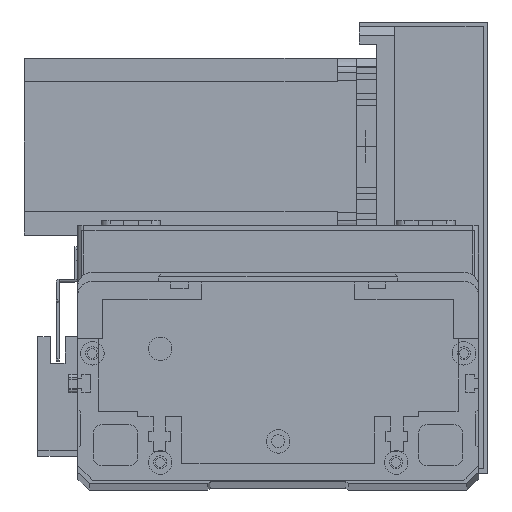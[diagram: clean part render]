
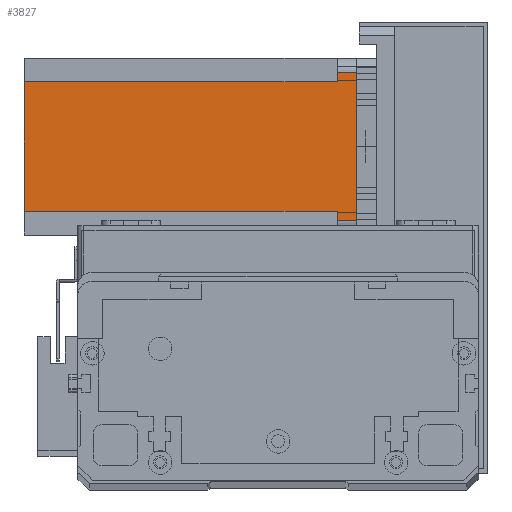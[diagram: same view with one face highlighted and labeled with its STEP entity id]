
A CAD part, top view. The second image highlights one B-rep face of the part: STEP entity #3827.
In plain terms, the highlighted planar face has unit normal (0, 0, 1) as drawn and (0, 1, 0) by its records, which use the part's own axes.
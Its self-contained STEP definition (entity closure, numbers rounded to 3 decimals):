
#183 = VECTOR ( 'NONE', #28445, 1000. ) ;
#547 = VERTEX_POINT ( 'NONE', #15726 ) ;
#972 = LINE ( 'NONE', #10698, #183 ) ;
#2537 = CARTESIAN_POINT ( 'NONE',  ( 5., 60., -6.5 ) ) ;
#3827 = ADVANCED_FACE ( 'NONE', ( #21886 ), #22219, .T. ) ;
#4146 = VERTEX_POINT ( 'NONE', #16596 ) ;
#4256 = VERTEX_POINT ( 'NONE', #17793 ) ;
#5270 = LINE ( 'NONE', #21995, #27831 ) ;
#5448 = EDGE_CURVE ( 'NONE', #4256, #28583, #5270, .T. ) ;
#5892 = LINE ( 'NONE', #15341, #16782 ) ;
#6474 = CARTESIAN_POINT ( 'NONE',  ( 8., 60., -112.5 ) ) ;
#6867 = EDGE_CURVE ( 'NONE', #4146, #28583, #11165, .T. ) ;
#7219 = AXIS2_PLACEMENT_3D ( 'NONE', #22744, #21798, #21697 ) ;
#7447 = VECTOR ( 'NONE', #22569, 1000. ) ;
#7456 = EDGE_CURVE ( 'NONE', #15126, #4146, #19631, .T. ) ;
#8175 = VECTOR ( 'NONE', #9691, 1000. ) ;
#8660 = EDGE_CURVE ( 'NONE', #15126, #13850, #5892, .T. ) ;
#9377 = ORIENTED_EDGE ( 'NONE', *, *, #8660, .T. ) ;
#9612 = CARTESIAN_POINT ( 'NONE',  ( 8., 60., -6.5 ) ) ;
#9682 = LINE ( 'NONE', #27920, #26801 ) ;
#9691 = DIRECTION ( 'NONE',  ( -1., 0., 0. ) ) ;
#10627 = EDGE_CURVE ( 'NONE', #547, #13850, #9682, .T. ) ;
#10698 = CARTESIAN_POINT ( 'NONE',  ( 0., 60., 0. ) ) ;
#11165 = LINE ( 'NONE', #24061, #22396 ) ;
#11250 = EDGE_LOOP ( 'NONE', ( #15271, #13074, #21480, #12265, #9377, #18444, #12349, #29091 ) ) ;
#11571 = EDGE_CURVE ( 'NONE', #547, #17693, #14325, .T. ) ;
#12144 = EDGE_CURVE ( 'NONE', #17693, #23150, #26366, .T. ) ;
#12265 = ORIENTED_EDGE ( 'NONE', *, *, #7456, .F. ) ;
#12349 = ORIENTED_EDGE ( 'NONE', *, *, #11571, .T. ) ;
#12842 = CARTESIAN_POINT ( 'NONE',  ( 5., 60., 0. ) ) ;
#13074 = ORIENTED_EDGE ( 'NONE', *, *, #5448, .T. ) ;
#13850 = VERTEX_POINT ( 'NONE', #6474 ) ;
#14325 = LINE ( 'NONE', #9612, #8175 ) ;
#14408 = CARTESIAN_POINT ( 'NONE',  ( 52., 60., -112.5 ) ) ;
#14660 = VECTOR ( 'NONE', #27436, 1000. ) ;
#15052 = DIRECTION ( 'NONE',  ( -1., 0., 0. ) ) ;
#15126 = VERTEX_POINT ( 'NONE', #14408 ) ;
#15271 = ORIENTED_EDGE ( 'NONE', *, *, #19050, .F. ) ;
#15341 = CARTESIAN_POINT ( 'NONE',  ( 0., 60., -112.5 ) ) ;
#15726 = CARTESIAN_POINT ( 'NONE',  ( 8., 60., -6.5 ) ) ;
#16596 = CARTESIAN_POINT ( 'NONE',  ( 52., 60., -6.5 ) ) ;
#16782 = VECTOR ( 'NONE', #15052, 1000. ) ;
#17693 = VERTEX_POINT ( 'NONE', #2537 ) ;
#17793 = CARTESIAN_POINT ( 'NONE',  ( 55., 60., 0. ) ) ;
#18444 = ORIENTED_EDGE ( 'NONE', *, *, #10627, .F. ) ;
#19050 = EDGE_CURVE ( 'NONE', #4256, #23150, #972, .T. ) ;
#19631 = LINE ( 'NONE', #24019, #7447 ) ;
#19712 = CARTESIAN_POINT ( 'NONE',  ( 55., 60., -6.5 ) ) ;
#21480 = ORIENTED_EDGE ( 'NONE', *, *, #6867, .F. ) ;
#21697 = DIRECTION ( 'NONE',  ( 0., 0., 1. ) ) ;
#21798 = DIRECTION ( 'NONE',  ( 0., 1., 0. ) ) ;
#21886 = FACE_OUTER_BOUND ( 'NONE', #11250, .T. ) ;
#21995 = CARTESIAN_POINT ( 'NONE',  ( 55., 60., -112.5 ) ) ;
#22219 = PLANE ( 'NONE',  #7219 ) ;
#22396 = VECTOR ( 'NONE', #23670, 1000. ) ;
#22569 = DIRECTION ( 'NONE',  ( 0., 0., 1. ) ) ;
#22744 = CARTESIAN_POINT ( 'NONE',  ( 0., 60., -112.5 ) ) ;
#23150 = VERTEX_POINT ( 'NONE', #12842 ) ;
#23670 = DIRECTION ( 'NONE',  ( 1., 0., 0. ) ) ;
#24019 = CARTESIAN_POINT ( 'NONE',  ( 52., 60., -112.5 ) ) ;
#24041 = DIRECTION ( 'NONE',  ( 0., 0., -1. ) ) ;
#24061 = CARTESIAN_POINT ( 'NONE',  ( 52., 60., -6.5 ) ) ;
#25903 = CARTESIAN_POINT ( 'NONE',  ( 5., 60., -112.5 ) ) ;
#26366 = LINE ( 'NONE', #25903, #14660 ) ;
#26801 = VECTOR ( 'NONE', #28405, 1000. ) ;
#27436 = DIRECTION ( 'NONE',  ( 0., 0., 1. ) ) ;
#27831 = VECTOR ( 'NONE', #24041, 1000. ) ;
#27920 = CARTESIAN_POINT ( 'NONE',  ( 8., 60., -112.5 ) ) ;
#28405 = DIRECTION ( 'NONE',  ( 0., 0., -1. ) ) ;
#28445 = DIRECTION ( 'NONE',  ( -1., 0., 0. ) ) ;
#28583 = VERTEX_POINT ( 'NONE', #19712 ) ;
#29091 = ORIENTED_EDGE ( 'NONE', *, *, #12144, .T. ) ;
